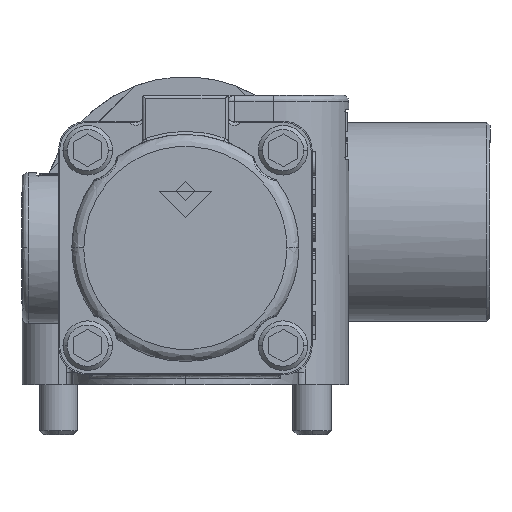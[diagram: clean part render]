
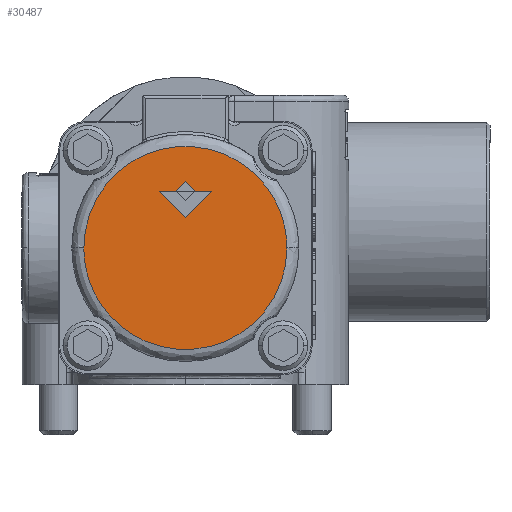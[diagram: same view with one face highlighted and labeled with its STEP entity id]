
A CAD part, left-side view. The second image highlights one B-rep face of the part: STEP entity #30487.
In plain terms, the highlighted planar face has unit normal (-1, 0, 0) as drawn and (0, 0, -1) by its records, which use the part's own axes.
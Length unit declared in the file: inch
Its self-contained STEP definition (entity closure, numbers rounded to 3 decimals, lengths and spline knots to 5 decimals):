
#1768 =( BOUNDED_CURVE ( )  B_SPLINE_CURVE ( 3, ( #30296, #41164, #8481, #52776 ),
 .UNSPECIFIED., .F., .T. ) 
 B_SPLINE_CURVE_WITH_KNOTS ( ( 4, 4 ),
 ( 0., 1. ),
 .UNSPECIFIED. ) 
 CURVE ( )  GEOMETRIC_REPRESENTATION_ITEM ( )  RATIONAL_B_SPLINE_CURVE ( ( 1., 0.333, 0.333, 1. ) ) 
 REPRESENTATION_ITEM ( '' )  );
#2399 = EDGE_CURVE ( 'NONE', #61116, #68914, #41716, .T. ) ;
#2514 = CARTESIAN_POINT ( 'NONE',  ( -4.52166, 2.04427, -0.11 ) ) ;
#2748 = ORIENTED_EDGE ( 'NONE', *, *, #35825, .F. ) ;
#2811 = EDGE_CURVE ( 'NONE', #14474, #61116, #34069, .T. ) ;
#2872 = CARTESIAN_POINT ( 'NONE',  ( -3.51166, 1.03427, -0.11 ) ) ;
#3459 = ORIENTED_EDGE ( 'NONE', *, *, #64781, .F. ) ;
#8481 = CARTESIAN_POINT ( 'NONE',  ( -3.51166, 0.02427, -0.11 ) ) ;
#11312 = LINE ( 'NONE', #50872, #37870 ) ;
#11863 = VECTOR ( 'NONE', #69243, 39.37008 ) ;
#12968 = CARTESIAN_POINT ( 'NONE',  ( -3.88666, 1.31677, -0.11 ) ) ;
#13742 = CARTESIAN_POINT ( 'NONE',  ( -4.01666, 1.18677, -0.11 ) ) ;
#14192 = VECTOR ( 'NONE', #28982, 39.37008 ) ;
#14474 = VERTEX_POINT ( 'NONE', #34994 ) ;
#14602 = ORIENTED_EDGE ( 'NONE', *, *, #38568, .F. ) ;
#14873 = ORIENTED_EDGE ( 'NONE', *, *, #2811, .F. ) ;
#17048 = EDGE_LOOP ( 'NONE', ( #68057, #14602 ) ) ;
#18573 = FACE_OUTER_BOUND ( 'NONE', #17048, .T. ) ;
#22311 = ORIENTED_EDGE ( 'NONE', *, *, #46794, .F. ) ;
#24382 = CARTESIAN_POINT ( 'NONE',  ( -4.01666, 1.36677, -0.11 ) ) ;
#24601 = CARTESIAN_POINT ( 'NONE',  ( -4.52166, 1.03427, -0.11 ) ) ;
#25150 = LINE ( 'NONE', #68322, #64168 ) ;
#25975 = EDGE_CURVE ( 'NONE', #68914, #29385, #25150, .T. ) ;
#28417 = CARTESIAN_POINT ( 'NONE',  ( -4.01666, 1.03427, -0.11 ) ) ;
#28682 = CARTESIAN_POINT ( 'NONE',  ( -4.06666, 1.31677, -0.11 ) ) ;
#28982 = DIRECTION ( 'NONE',  ( -0.707, -0.707, 0. ) ) ;
#29385 = VERTEX_POINT ( 'NONE', #28682 ) ;
#29542 = ORIENTED_EDGE ( 'NONE', *, *, #2399, .F. ) ;
#29631 = CARTESIAN_POINT ( 'NONE',  ( -3.96666, 1.31677, -0.11 ) ) ;
#30296 = CARTESIAN_POINT ( 'NONE',  ( -4.52166, 1.03427, -0.11 ) ) ;
#30487 = ADVANCED_FACE ( 'NONE', ( #34938, #18573 ), #51976, .F. ) ;
#30836 = CARTESIAN_POINT ( 'NONE',  ( -4.52166, 1.03427, -0.11 ) ) ;
#33474 = DIRECTION ( 'NONE',  ( 1., 0., 0. ) ) ;
#34069 = LINE ( 'NONE', #12968, #14192 ) ;
#34938 = FACE_BOUND ( 'NONE', #60427, .T. ) ;
#34994 = CARTESIAN_POINT ( 'NONE',  ( -3.88666, 1.31677, -0.11 ) ) ;
#35478 = CARTESIAN_POINT ( 'NONE',  ( -4.01666, 1.36677, -0.11 ) ) ;
#35822 = LINE ( 'NONE', #35478, #54461 ) ;
#35825 = EDGE_CURVE ( 'NONE', #54285, #70680, #35822, .T. ) ;
#35920 = CARTESIAN_POINT ( 'NONE',  ( -4.01666, 1.18677, -0.11 ) ) ;
#37593 = EDGE_CURVE ( 'NONE', #61623, #68641, #52205, .T. ) ;
#37870 = VECTOR ( 'NONE', #33474, 39.37008 ) ;
#38568 = EDGE_CURVE ( 'NONE', #68641, #61623, #1768, .T. ) ;
#39754 = AXIS2_PLACEMENT_3D ( 'NONE', #28417, #50556, #62834 ) ;
#40878 = CARTESIAN_POINT ( 'NONE',  ( -4.14666, 1.31677, -0.11 ) ) ;
#41164 = CARTESIAN_POINT ( 'NONE',  ( -4.52166, 0.02427, -0.11 ) ) ;
#41716 = LINE ( 'NONE', #35920, #11863 ) ;
#44154 = DIRECTION ( 'NONE',  ( 0.707, 0.707, 0. ) ) ;
#45062 = VECTOR ( 'NONE', #44154, 39.37008 ) ;
#46288 = CARTESIAN_POINT ( 'NONE',  ( -3.51166, 1.03427, -0.11 ) ) ;
#46794 = EDGE_CURVE ( 'NONE', #29385, #54285, #70966, .T. ) ;
#50556 = DIRECTION ( 'NONE',  ( 0., 0., 1. ) ) ;
#50872 = CARTESIAN_POINT ( 'NONE',  ( -4.01666, 1.31677, -0.11 ) ) ;
#51976 = PLANE ( 'NONE',  #39754 ) ;
#52205 =( BOUNDED_CURVE ( )  B_SPLINE_CURVE ( 3, ( #2872, #69233, #2514, #30836 ),
 .UNSPECIFIED., .F., .T. ) 
 B_SPLINE_CURVE_WITH_KNOTS ( ( 4, 4 ),
 ( 0., 1. ),
 .UNSPECIFIED. ) 
 CURVE ( )  GEOMETRIC_REPRESENTATION_ITEM ( )  RATIONAL_B_SPLINE_CURVE ( ( 1., 0.333, 0.333, 1. ) ) 
 REPRESENTATION_ITEM ( '' )  );
#52776 = CARTESIAN_POINT ( 'NONE',  ( -3.51166, 1.03427, -0.11 ) ) ;
#54285 = VERTEX_POINT ( 'NONE', #24382 ) ;
#54461 = VECTOR ( 'NONE', #58659, 39.37008 ) ;
#55758 = CARTESIAN_POINT ( 'NONE',  ( -4.06666, 1.31677, -0.11 ) ) ;
#57056 = ORIENTED_EDGE ( 'NONE', *, *, #25975, .F. ) ;
#58659 = DIRECTION ( 'NONE',  ( 0.707, -0.707, 0. ) ) ;
#60427 = EDGE_LOOP ( 'NONE', ( #57056, #29542, #14873, #3459, #2748, #22311 ) ) ;
#61116 = VERTEX_POINT ( 'NONE', #13742 ) ;
#61623 = VERTEX_POINT ( 'NONE', #46288 ) ;
#62834 = DIRECTION ( 'NONE',  ( 1., 0., 0. ) ) ;
#63594 = DIRECTION ( 'NONE',  ( 1., 0., 0. ) ) ;
#64168 = VECTOR ( 'NONE', #63594, 39.37008 ) ;
#64781 = EDGE_CURVE ( 'NONE', #70680, #14474, #11312, .T. ) ;
#68057 = ORIENTED_EDGE ( 'NONE', *, *, #37593, .F. ) ;
#68322 = CARTESIAN_POINT ( 'NONE',  ( -4.01666, 1.31677, -0.11 ) ) ;
#68641 = VERTEX_POINT ( 'NONE', #24601 ) ;
#68914 = VERTEX_POINT ( 'NONE', #40878 ) ;
#69233 = CARTESIAN_POINT ( 'NONE',  ( -3.51166, 2.04427, -0.11 ) ) ;
#69243 = DIRECTION ( 'NONE',  ( -0.707, 0.707, 0. ) ) ;
#70680 = VERTEX_POINT ( 'NONE', #29631 ) ;
#70966 = LINE ( 'NONE', #55758, #45062 ) ;
